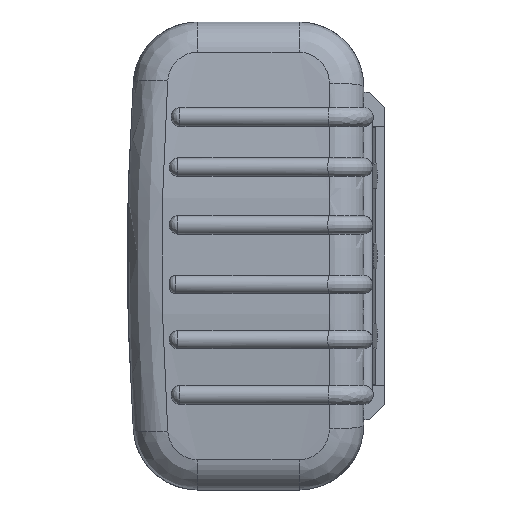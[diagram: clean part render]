
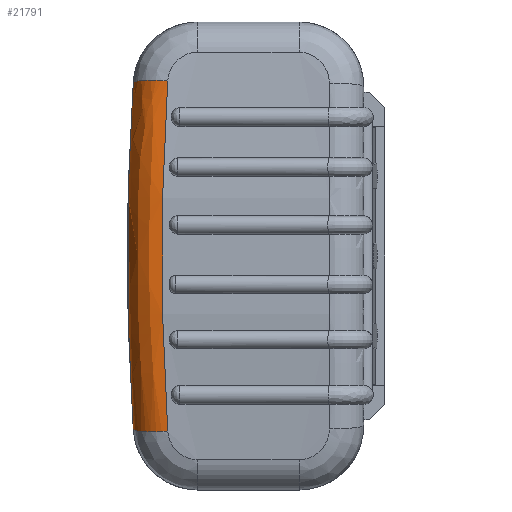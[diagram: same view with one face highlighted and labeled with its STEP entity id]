
A CAD part, left-side view. The second image highlights one B-rep face of the part: STEP entity #21791.
In plain terms, the highlighted free-form (B-spline) face has degree [3, 2] with [6, 3] control points.
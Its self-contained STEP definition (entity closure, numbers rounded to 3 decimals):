
#2012 = CARTESIAN_POINT ( 'NONE',  ( 80.55, 45.446, -39.698 ) ) ;
#2074 = CARTESIAN_POINT ( 'NONE',  ( 80.55, 53.428, -40.234 ) ) ;
#2537 = CARTESIAN_POINT ( 'NONE',  ( 90.667, 46.777, -13.516 ) ) ;
#3478 = CIRCLE ( 'NONE', #36394, 8. ) ;
#5563 = DIRECTION ( 'NONE',  ( 0.994, 0., -0.106 ) ) ;
#6078 = CARTESIAN_POINT ( 'NONE',  ( 90.667, 54.777, 13.695 ) ) ;
#6318 = CARTESIAN_POINT ( 'NONE',  ( 89.95, 46.334, -27.032 ) ) ;
#7140 =( BOUNDED_SURFACE ( )  B_SPLINE_SURFACE ( 3, 2, ( 
 ( #2074, #34021, #37591 ),
 ( #16519, #41123, #20013 ),
 ( #44677, #23544, #2537 ),
 ( #27067, #6078, #30632 ),
 ( #9612, #34173, #13156 ),
 ( #37757, #16652, #41287 ) ),
 .UNSPECIFIED., .F., .F., .F. ) 
 B_SPLINE_SURFACE_WITH_KNOTS ( ( 4, 2, 4 ),
 ( 3, 3 ),
 ( 0., 0.04, 0.079 ),
 ( 0., 1. ),
 .UNSPECIFIED. ) 
 GEOMETRIC_REPRESENTATION_ITEM ( )  RATIONAL_B_SPLINE_SURFACE ( (
 ( 1., 0.71, 1.),
 ( 1., 0.708, 1.),
 ( 1., 0.707, 1.),
 ( 1., 0.707, 1.),
 ( 1., 0.708, 1.),
 ( 1., 0.71, 1.) ) ) 
 REPRESENTATION_ITEM ( '' )  SURFACE ( )  );
#7300 = CARTESIAN_POINT ( 'NONE',  ( 80.55, 53.428, -40.234 ) ) ;
#7489 = CARTESIAN_POINT ( 'NONE',  ( 80.55, 53.428, 40.234 ) ) ;
#9612 = CARTESIAN_POINT ( 'NONE',  ( 81.965, 54.328, 26.823 ) ) ;
#9892 = CARTESIAN_POINT ( 'NONE',  ( 91.383, 47.219, 0. ) ) ;
#10234 = CARTESIAN_POINT ( 'NONE',  ( 80.55, 45.446, 39.698 ) ) ;
#11040 = VERTEX_POINT ( 'NONE', #33733 ) ;
#13156 = CARTESIAN_POINT ( 'NONE',  ( 89.95, 46.334, 27.032 ) ) ;
#13409 = CARTESIAN_POINT ( 'NONE',  ( 88.505, 45.446, 40.548 ) ) ;
#13777 = DIRECTION ( 'NONE',  ( 0.994, 0., 0.106 ) ) ;
#14002 = VERTEX_POINT ( 'NONE', #7489 ) ;
#15087 = CARTESIAN_POINT ( 'NONE',  ( 81.965, 54.328, 26.822 ) ) ;
#15239 = CARTESIAN_POINT ( 'NONE',  ( 83.368, 55.225, 0. ) ) ;
#16186 = CARTESIAN_POINT ( 'NONE',  ( 88.505, 45.446, -40.548 ) ) ;
#16519 = CARTESIAN_POINT ( 'NONE',  ( 81.965, 54.328, -26.823 ) ) ;
#16652 = CARTESIAN_POINT ( 'NONE',  ( 88.449, 53.371, 41.074 ) ) ;
#18760 = CARTESIAN_POINT ( 'NONE',  ( 80.55, 53.428, -40.234 ) ) ;
#20013 = CARTESIAN_POINT ( 'NONE',  ( 89.95, 46.334, -27.032 ) ) ;
#21060 = ORIENTED_EDGE ( 'NONE', *, *, #44401, .F. ) ;
#21791 = ADVANCED_FACE ( 'NONE', ( #36061 ), #7140, .T. ) ;
#22248 = B_SPLINE_CURVE_WITH_KNOTS ( 'NONE', 3,
 ( #29184, #15087, #15239, #39856, #18760 ),
 .UNSPECIFIED., .F., .F.,
 ( 4, 1, 4 ),
 ( 0., 0.04, 0.08 ),
 .UNSPECIFIED. ) ;
#23544 = CARTESIAN_POINT ( 'NONE',  ( 90.667, 54.777, -13.695 ) ) ;
#26548 = DIRECTION ( 'NONE',  ( 0.106, 0.067, 0.992 ) ) ;
#26928 = VERTEX_POINT ( 'NONE', #16186 ) ;
#27067 = CARTESIAN_POINT ( 'NONE',  ( 82.667, 54.777, 13.411 ) ) ;
#28965 = EDGE_CURVE ( 'NONE', #26928, #33056, #40444, .T. ) ;
#29184 = CARTESIAN_POINT ( 'NONE',  ( 80.55, 53.428, 40.234 ) ) ;
#30162 = B_SPLINE_CURVE_WITH_KNOTS ( 'NONE', 3,
 ( #30890, #6318, #9892, #34445, #13409 ),
 .UNSPECIFIED., .F., .F.,
 ( 4, 1, 4 ),
 ( 0., 0.041, 0.081 ),
 .UNSPECIFIED. ) ;
#30329 = EDGE_CURVE ( 'NONE', #11040, #14002, #3478, .T. ) ;
#30632 = CARTESIAN_POINT ( 'NONE',  ( 90.667, 46.777, 13.516 ) ) ;
#30890 = CARTESIAN_POINT ( 'NONE',  ( 88.505, 45.446, -40.548 ) ) ;
#33056 = VERTEX_POINT ( 'NONE', #7300 ) ;
#33643 = AXIS2_PLACEMENT_3D ( 'NONE', #2012, #26548, #5563 ) ;
#33733 = CARTESIAN_POINT ( 'NONE',  ( 88.505, 45.446, 40.548 ) ) ;
#34021 = CARTESIAN_POINT ( 'NONE',  ( 88.449, 53.371, -41.074 ) ) ;
#34173 = CARTESIAN_POINT ( 'NONE',  ( 89.935, 54.311, 27.357 ) ) ;
#34445 = CARTESIAN_POINT ( 'NONE',  ( 89.95, 46.334, 27.032 ) ) ;
#34795 = DIRECTION ( 'NONE',  ( -0.106, -0.067, 0.992 ) ) ;
#35664 = ORIENTED_EDGE ( 'NONE', *, *, #28965, .T. ) ;
#36061 = FACE_OUTER_BOUND ( 'NONE', #38869, .T. ) ;
#36394 = AXIS2_PLACEMENT_3D ( 'NONE', #10234, #34795, #13777 ) ;
#36492 = EDGE_CURVE ( 'NONE', #26928, #11040, #30162, .T. ) ;
#37591 = CARTESIAN_POINT ( 'NONE',  ( 88.505, 45.446, -40.548 ) ) ;
#37757 = CARTESIAN_POINT ( 'NONE',  ( 80.55, 53.428, 40.234 ) ) ;
#38869 = EDGE_LOOP ( 'NONE', ( #35664, #21060, #39912, #41457 ) ) ;
#39856 = CARTESIAN_POINT ( 'NONE',  ( 81.965, 54.328, -26.822 ) ) ;
#39912 = ORIENTED_EDGE ( 'NONE', *, *, #30329, .F. ) ;
#40444 = CIRCLE ( 'NONE', #33643, 8. ) ;
#41123 = CARTESIAN_POINT ( 'NONE',  ( 89.935, 54.311, -27.357 ) ) ;
#41287 = CARTESIAN_POINT ( 'NONE',  ( 88.505, 45.446, 40.548 ) ) ;
#41457 = ORIENTED_EDGE ( 'NONE', *, *, #36492, .F. ) ;
#44401 = EDGE_CURVE ( 'NONE', #14002, #33056, #22248, .T. ) ;
#44677 = CARTESIAN_POINT ( 'NONE',  ( 82.667, 54.777, -13.411 ) ) ;
